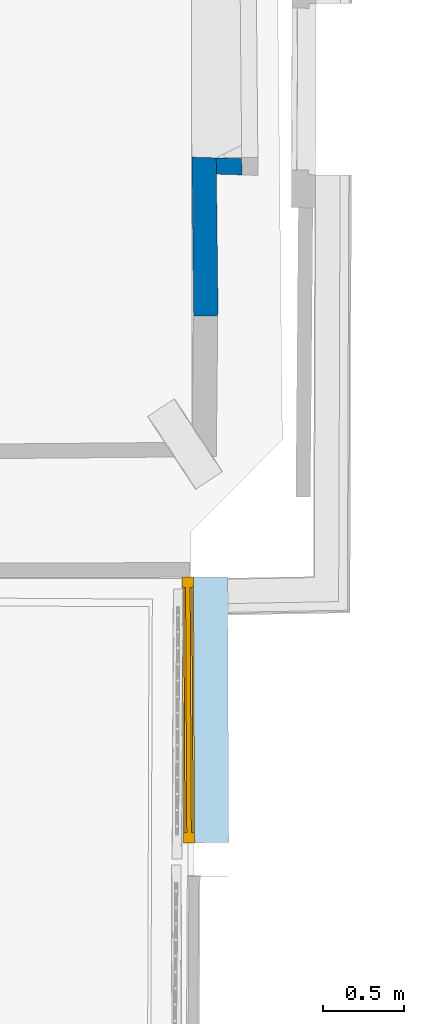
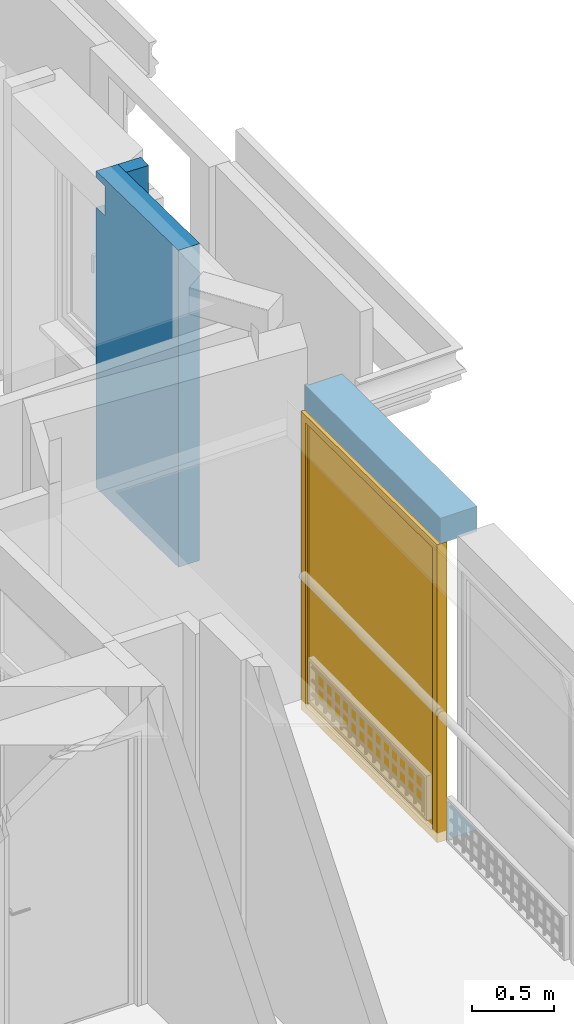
# One storey, part 56 of 72: 2 walls, 1 window, 1 opening, plus 1 element that does not belong to this part.
"""IFC2X3 building model written with IfcOpenShell, lengths in centimetres."""

import ifcopenshell
import ifcopenshell.guid

model = None  # the IFC model being written
_history = None  # IfcOwnerHistory: only IFC2X3 demands one
_inside = {}  # id of a spatial element -> (the spatial element, [elements in it])
_under = {}  # id of a project, library or spatial element -> (it, [spatial elements below it])
_declared = {}  # id of a project -> (the project, [libraries it declares])
_typed = {}  # id of a type object -> (the type object, [elements of that type])
_made_of = {}  # id of a material, layer set ... -> (it, [elements and type objects made of it])


def new_model(schema):
    """Start an empty IFC model of exactly this schema.

    Asked for "IFC4X3", IfcOpenShell would pick the latest addendum, in which some entities
    have other attributes; the version numbers below select the first issue.
    IFC2X3 requires an IfcOwnerHistory on every rooted entity: one is made here for all.
    """
    global model, _history
    if schema == "IFC4X3":
        model = ifcopenshell.file(schema_version=(4, 3, 0, 0))
    else:
        model = ifcopenshell.file(schema=schema)
    _inside.clear()
    _under.clear()
    _declared.clear()
    _typed.clear()
    _made_of.clear()
    _history = None
    if model.schema == "IFC2X3":
        org = make("IfcOrganization", Name="unknown")
        user = make(
            "IfcPersonAndOrganization",
            ThePerson=make("IfcPerson", FamilyName="unknown"),
            TheOrganization=org,
        )
        app = make(
            "IfcApplication",
            ApplicationDeveloper=org,
            Version="unknown",
            ApplicationFullName="unknown",
            ApplicationIdentifier="unknown",
        )
        _history = make(
            "IfcOwnerHistory",
            OwningUser=user,
            OwningApplication=app,
            ChangeAction="ADDED",
            CreationDate=0,
        )
    return model


def make(cls, **values):
    """One entity of the class cls with the attributes given. An attribute that is None is left unset."""
    return model.create_entity(
        cls, **{name: value for name, value in values.items() if value is not None}
    )


def entity(cls, *values):
    """Any entity or typed value of the class cls, its attributes in the order of the schema. None: left unset."""
    e = model.create_entity(cls)
    for i, value in enumerate(values):
        if value is not None:
            e[i] = value
    return e


def rooted(cls, **values):
    """An entity with a GlobalId (a new one), such as an element, a storey or a relation."""
    return make(cls, GlobalId=ifcopenshell.guid.new(), OwnerHistory=_history, **values)


def si_unit(unit_type, name, prefix=None):
    """IfcSIUnit, for example si_unit("LENGTHUNIT", "METRE", prefix="MILLI")."""
    return make("IfcSIUnit", UnitType=unit_type, Prefix=prefix, Name=name)


def converted_unit(unit_type, name, factor, base, dimensions=None, offset=None):
    """IfcConversionBasedUnit, such as the inch: factor (a typed value) times the base unit."""
    return make(
        "IfcConversionBasedUnit"
        if offset is None
        else "IfcConversionBasedUnitWithOffset",
        ConversionOffset=offset,
        Dimensions=None
        if dimensions is None
        else entity("IfcDimensionalExponents", *dimensions),
        UnitType=unit_type,
        Name=name,
        ConversionFactor=make(
            "IfcMeasureWithUnit", ValueComponent=factor, UnitComponent=base
        ),
    )


def assignment(units):
    """IfcUnitAssignment: the units of a project."""
    return None if units is None else make("IfcUnitAssignment", Units=units)


def point(xyz):
    """IfcCartesianPoint."""
    return None if xyz is None else make("IfcCartesianPoint", Coordinates=xyz)


def direction(xyz):
    """IfcDirection."""
    return None if xyz is None else make("IfcDirection", DirectionRatios=xyz)


def frame(location, z_axis=None, x_axis=None):
    """IfcAxis2Placement3D, a coordinate frame: its origin and axes. An axis left out is left unset."""
    return make(
        "IfcAxis2Placement3D",
        Location=point(location),
        Axis=direction(z_axis),
        RefDirection=direction(x_axis),
    )


def origin():
    """The frame at (0, 0, 0) with its axes left unset."""
    return frame((0.0, 0.0, 0.0))


def origin_with_axes():
    """The frame at (0, 0, 0) with the z axis (0, 0, 1) and the x axis (1, 0, 0) written out."""
    return frame((0.0, 0.0, 0.0), z_axis=(0.0, 0.0, 1.0), x_axis=(1.0, 0.0, 0.0))


def place(relative_to, where):
    """IfcLocalPlacement: puts the frame where relative to a parent placement (None: the world)."""
    return make(
        "IfcLocalPlacement", PlacementRelTo=relative_to, RelativePlacement=where
    )


def context(
    kind, dimensions, precision=None, world=None, true_north=None, identifier=None
):
    """IfcGeometricRepresentationContext, for example the 3D "Model" context."""
    return make(
        "IfcGeometricRepresentationContext",
        ContextIdentifier=identifier,
        ContextType=kind,
        CoordinateSpaceDimension=dimensions,
        Precision=precision,
        WorldCoordinateSystem=world,
        TrueNorth=true_north,
    )


def subcontext(parent, identifier, kind, view, scale=None):
    """IfcGeometricRepresentationSubContext, for example "Body" below "Model"."""
    return make(
        "IfcGeometricRepresentationSubContext",
        ContextIdentifier=identifier,
        ContextType=kind,
        ParentContext=parent,
        TargetScale=scale,
        TargetView=view,
    )


def project(units=None, contexts=None):
    """IfcProject with its units and contexts."""
    return rooted(
        "IfcProject",
        Name="project",
        RepresentationContexts=contexts,
        UnitsInContext=assignment(units),
    )


def spatial(cls, under=None, at=None, **own):
    """A site, building, storey or space (cls), placed at a placement, below another one or the project."""
    s = rooted(cls, ObjectPlacement=at, **own)
    if under is not None:
        _under.setdefault(under.id(), (under, []))[1].append(s)
    return s


def polyline(points):
    """IfcPolyline through the points."""
    return make("IfcPolyline", Points=[point(p) for p in points])


def outline(outer, holes=None, kind="AREA"):
    """IfcArbitraryClosedProfileDef: a profile drawn as a closed curve; with holes, ...WithVoids."""
    if holes is None:
        return make("IfcArbitraryClosedProfileDef", ProfileType=kind, OuterCurve=outer)
    return make(
        "IfcArbitraryProfileDefWithVoids",
        ProfileType=kind,
        OuterCurve=outer,
        InnerCurves=holes,
    )


def extrude(swept, where, along, depth):
    """IfcExtrudedAreaSolid: the profile swept, set in the frame where, extruded along a direction by depth."""
    return make(
        "IfcExtrudedAreaSolid",
        SweptArea=swept,
        Position=where,
        ExtrudedDirection=direction(along),
        Depth=depth,
    )


def clip(a, b, op="DIFFERENCE"):
    """IfcBooleanClippingResult: the solid a cut by the half space b."""
    return make(
        "IfcBooleanClippingResult", Operator=op, FirstOperand=a, SecondOperand=b
    )


def bounded_halfspace(plane, agree, where, boundary):
    """IfcPolygonalBoundedHalfSpace: a half space limited to a polygon's prism."""
    return make(
        "IfcPolygonalBoundedHalfSpace",
        BaseSurface=make("IfcPlane", Position=plane),
        AgreementFlag=agree,
        Position=where,
        PolygonalBoundary=boundary,
    )


def faces_of(points, faces, orient=None, outer=None):
    """IfcFace entities. A face is a list of loops; a loop is a list of indices into points, from 0.

    orient and outer hold one flag for each loop. By default every Orientation is true, the
    first loop of a face is its IfcFaceOuterBound and the others are IfcFaceBound.
    """
    made = []
    for i, loops in enumerate(faces):
        bounds = []
        for j, loop in enumerate(loops):
            is_outer = j == 0 if outer is None else outer[i][j]
            bounds.append(
                make(
                    "IfcFaceOuterBound" if is_outer else "IfcFaceBound",
                    Bound=make("IfcPolyLoop", Polygon=[points[k] for k in loop]),
                    Orientation=True if orient is None else orient[i][j],
                )
            )
        made.append(make("IfcFace", Bounds=bounds))
    return made


def faceted_brep(points, faces, orient=None, outer=None, voids=None):
    """IfcFacetedBrep: a solid bounded by flat faces; with voids (closed shells), ...WithVoids."""
    shared = [point(p) for p in points]
    hull = make("IfcClosedShell", CfsFaces=faces_of(shared, faces, orient, outer))
    if voids is None:
        return make("IfcFacetedBrep", Outer=hull)
    return make(
        "IfcFacetedBrepWithVoids",
        Outer=hull,
        Voids=[
            make(cls, CfsFaces=faces_of(shared, fs, o, b)) for cls, fs, o, b in voids
        ],
    )


def shape(context_of_items, identifier, shape_type, items):
    """IfcShapeRepresentation: the items that make up one representation, for example the "Body"."""
    return make(
        "IfcShapeRepresentation",
        ContextOfItems=context_of_items,
        RepresentationIdentifier=identifier,
        RepresentationType=shape_type,
        Items=items,
    )


def source(mapping_origin, context_of_items, identifier, shape_type, items):
    """IfcRepresentationMap: a shape defined once, which mapped items show again and again."""
    return make(
        "IfcRepresentationMap",
        MappingOrigin=mapping_origin,
        MappedRepresentation=shape(context_of_items, identifier, shape_type, items),
    )


def transform(
    local_origin,
    x_axis=None,
    y_axis=None,
    z_axis=None,
    scale=None,
    scale2=None,
    scale3=None,
    uniform=True,
):
    """IfcCartesianTransformationOperator3D, or its non-uniform kind. x_axis, y_axis, z_axis: its Axis1, 2, 3."""
    if uniform:
        return make(
            "IfcCartesianTransformationOperator3D",
            Axis1=direction(x_axis),
            Axis2=direction(y_axis),
            LocalOrigin=point(local_origin),
            Scale=scale,
            Axis3=direction(z_axis),
        )
    return make(
        "IfcCartesianTransformationOperator3DnonUniform",
        Axis1=direction(x_axis),
        Axis2=direction(y_axis),
        LocalOrigin=point(local_origin),
        Scale=scale,
        Axis3=direction(z_axis),
        Scale2=scale2,
        Scale3=scale3,
    )


def mapped(mapping_source, mapping_target):
    """IfcMappedItem: shows the shape of a source again, moved by a transform."""
    return make(
        "IfcMappedItem", MappingSource=mapping_source, MappingTarget=mapping_target
    )


def material(Name=None, Category=None):
    """IfcMaterial."""
    return make("IfcMaterial", Name=Name, Category=Category)


def material_list(materials):
    """IfcMaterialList."""
    return make("IfcMaterialList", Materials=materials)


def layer(
    of_material, thickness, ventilated=None, Name=None, Category=None, Priority=None
):
    """IfcMaterialLayer: one layer of a wall or slab, of a material (None: an air gap)."""
    return make(
        "IfcMaterialLayer",
        Material=of_material,
        LayerThickness=thickness,
        IsVentilated=ventilated,
        Name=Name,
        Category=Category,
        Priority=Priority,
    )


def layer_set(layers, Name=None):
    """IfcMaterialLayerSet."""
    return make("IfcMaterialLayerSet", MaterialLayers=layers, LayerSetName=Name)


def layer_usage(for_layer_set, set_direction, sense, offset, extent=None):
    """IfcMaterialLayerSetUsage: how a layer set lies in its element."""
    return make(
        "IfcMaterialLayerSetUsage",
        ForLayerSet=for_layer_set,
        LayerSetDirection=set_direction,
        DirectionSense=sense,
        OffsetFromReferenceLine=offset,
        ReferenceExtent=extent,
    )


def made_of(thing, what):
    """Note that an element or type object is made of a material, layer set ...; save() writes the relation."""
    if what is not None:
        _made_of.setdefault(what.id(), (what, []))[1].append(thing)
    return thing


def type_object(cls, material=None, **own):
    """A type object (cls), such as IfcWallType, which elements share."""
    return made_of(rooted(cls, **own), material)


def element(
    cls,
    number,
    at=None,
    inside=None,
    cuts=None,
    type_object=None,
    material=None,
    context=None,
    identifier="Body",
    shape_type=None,
    held_by="IfcProductDefinitionShape",
    body=None,
    shapes=None,
    **own,
):
    """One element of the class cls, such as IfcWall. Its Tag is "e" and its number.

    at: its placement. inside: the storey or other place that contains it. cuts: it is an
    opening in that element (IfcRelVoidsElement). A single representation is given by context,
    identifier, shape_type and body (its items); several are given by shapes. held_by: the class
    of the entity that holds the representations. save() writes the other relations.
    """
    e = rooted(cls, Tag="e%d" % number, ObjectPlacement=at, **own)
    if body is not None:
        shapes = [shape(context, identifier, shape_type, body)]
    if shapes is not None:
        e.Representation = make(held_by, Representations=shapes)
    if inside is not None:
        _inside.setdefault(inside.id(), (inside, []))[1].append(e)
    if cuts is not None:
        rooted(
            "IfcRelVoidsElement", RelatingBuildingElement=cuts, RelatedOpeningElement=e
        )
    if type_object is not None:
        _typed.setdefault(type_object.id(), (type_object, []))[1].append(e)
    return made_of(e, material)


def fill(opening, filler):
    """IfcRelFillsElement: the door or window that sits in an opening."""
    return rooted(
        "IfcRelFillsElement",
        RelatingOpeningElement=opening,
        RelatedBuildingElement=filler,
    )


def aggregate(whole, parts):
    """IfcRelAggregates: a whole, such as a stair, and the parts it consists of."""
    return rooted("IfcRelAggregates", RelatingObject=whole, RelatedObjects=parts)


def save(model, path):
    """Write the relations noted so far, then the file.

    IfcRelAggregates (storeys below a building ...), IfcRelContainedInSpatialStructure (elements
    in a storey), IfcRelDefinesByType, IfcRelAssociatesMaterial and IfcRelDeclares: one each for
    every whole, place, type object, material and project.
    """
    for whole, parts in _under.values():
        aggregate(whole, parts)
    for where, things in _inside.values():
        rooted(
            "IfcRelContainedInSpatialStructure",
            RelatedElements=things,
            RelatingStructure=where,
        )
    for kind, things in _typed.values():
        rooted("IfcRelDefinesByType", RelatedObjects=things, RelatingType=kind)
    for what, things in _made_of.values():
        rooted("IfcRelAssociatesMaterial", RelatedObjects=things, RelatingMaterial=what)
    for by, libraries in _declared.values():
        rooted("IfcRelDeclares", RelatingContext=by, RelatedDefinitions=libraries)
    model.write(path)


model = new_model("IFC2X3")

# Units and contexts
model_context = context("Model", 3, precision=0.0001, world=origin(), true_north=direction((0.225632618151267, 0.974212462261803, 0.0)))
body_context = subcontext(model_context, "Body", "Model", "MODEL_VIEW")
footprint_context = subcontext(model_context, "FootPrint", "Model", "MODEL_VIEW")
profile_context = subcontext(model_context, "Profile", "Model", "MODEL_VIEW")
ifc_project = project(units=[si_unit("LENGTHUNIT", "METRE", prefix="CENTI"), si_unit("AREAUNIT", "SQUARE_METRE", prefix="CENTI"), si_unit("VOLUMEUNIT", "CUBIC_METRE", prefix="CENTI"), converted_unit("PLANEANGLEUNIT", "DEGREE", entity("IfcRatioMeasure", 0.0174532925), si_unit("PLANEANGLEUNIT", "RADIAN"), dimensions=[0, 0, 0, 0, 0, 0, 0])], contexts=[model_context])

# Site, building, storey
site_placement = place(None, origin_with_axes())
site = spatial("IfcSite", under=ifc_project, at=site_placement, Name="Default Site", CompositionType="ELEMENT")
building_placement = place(site_placement, origin_with_axes())
building = spatial("IfcBuilding", under=site, at=building_placement, Name="Default Building", CompositionType="ELEMENT")
storey_placement = place(building_placement, frame((0.0, 0.0, 853.910374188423), z_axis=(0.0, 0.0, 1.0), x_axis=(1.0, 0.0, 0.0)))
storey = spatial("IfcBuildingStorey", under=building, at=storey_placement, Name="Niveau 2", CompositionType="ELEMENT", Elevation=853.910374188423)

# Walls
ifc_material_1 = material(Name="<aucun>")
ifc_layer_1 = layer(ifc_material_1, 15.0)
ifc_layer_set_1 = layer_set([ifc_layer_1], Name="default")
ifc_layer_usage_1 = layer_usage(ifc_layer_set_1, "AXIS2", "POSITIVE", -7.5)
wall_type_1 = type_object("IfcWallType", Name="default 150", PredefinedType="NOTDEFINED", material=ifc_layer_set_1)
wall_1_placement = place(storey_placement, frame((1082.95046021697, 313.039782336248, 1.4210854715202e-12), z_axis=(0.0, 0.0, 1.0), x_axis=(-0.0119277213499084, 0.999928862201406, 0.0)))
element("IfcWall", 1, at=wall_1_placement, inside=storey, type_object=wall_type_1, material=ifc_layer_usage_1, Name="Enveloppe 150037", context=body_context, shape_type="Brep", body=[
    faceted_brep([(0.274368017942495, 7.49997107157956, 199.999976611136), (10.2630058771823, 7.49997106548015, 199.999976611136), (10.2630058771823, 7.49997106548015, -2.33888638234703e-05), (0.274368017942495, 7.49997107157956, -2.33888638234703e-05), (10.2630058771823, 7.50003867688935, 199.999976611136), (87.555200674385, 7.50003862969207, 199.999976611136), (98.2115993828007, 7.5000386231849, 199.999976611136), (98.2115993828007, 7.5000386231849, -2.33888638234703e-05), (10.2630058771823, 7.50003867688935, -2.33888638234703e-05), (0.274368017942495, 7.49997107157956, 234.007525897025), (10.2630058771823, 7.49997106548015, 234.007525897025), (10.2630058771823, 7.50003867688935, 234.007525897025), (87.555200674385, 7.50003862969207, 234.007525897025), (87.555200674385, 7.50003862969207, 229.999995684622), (87.555200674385, 7.50003862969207, 207.999968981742), (98.2115993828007, 7.49995873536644, 199.999976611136), (87.5552006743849, 7.49995874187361, 199.999976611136), (87.5552006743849, 7.49995874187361, 207.999968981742), (98.2115993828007, 7.49995873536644, 207.999968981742), (98.2115993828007, 7.49995873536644, 229.999995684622), (87.5552006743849, 7.49995874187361, 229.999995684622), (87.5552006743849, 7.49995874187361, 234.007525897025), (98.2115993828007, 7.49995873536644, 234.007525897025), (0.274368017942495, 7.49997107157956, 235.000014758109), (10.2630058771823, 7.49997106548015, 235.000014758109), (10.2630058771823, 7.50003867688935, 235.000014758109), (98.2115993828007, 7.5000386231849, 235.000014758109), (98.2115993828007, 7.5000386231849, 234.007525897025), (92.6532316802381, -7.50000284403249, -2.33888638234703e-05), (97.5645266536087, -7.5000028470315, -2.33888638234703e-05), (97.5645266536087, -7.5000028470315, 199.999976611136), (92.6532316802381, -7.50000284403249, 199.999976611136), (10.0975249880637, -7.49997010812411, -2.33888638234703e-05), (83.6301637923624, -7.49997015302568, -2.33888638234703e-05), (83.6301637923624, -7.49997015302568, 199.999976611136), (10.0975249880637, -7.49997010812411, 199.999976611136), (-0.05169718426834, -7.275995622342, -2.33888638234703e-05), (10.0975249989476, -7.49996961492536, -2.33888638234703e-05), (10.0975249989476, -7.49996961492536, 199.999976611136), (-0.05169718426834, -7.275995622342, 199.999976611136), (87.5551932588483, -7.50000284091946, 199.999976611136), (87.5551932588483, -7.50000284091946, -2.33888638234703e-05), (87.5551932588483, -7.50003928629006, 199.999976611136), (83.6301637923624, -7.5000392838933, 199.999976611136), (83.6301637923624, -7.5000392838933, -2.33888638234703e-05), (87.5551932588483, -7.50003928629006, -2.33888638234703e-05), (10.0975249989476, -7.49996961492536, 234.007525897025), (-0.05169718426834, -7.275995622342, 234.007525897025), (87.5551932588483, -7.49997015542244, 199.999976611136), (87.5551932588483, -7.49997015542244, 208.999991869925), (87.5551932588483, -7.49997015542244, 234.007525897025), (10.0975249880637, -7.49997010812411, 234.007525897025), (97.5645266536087, -7.50003929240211, 199.999976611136), (97.5645266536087, -7.50003929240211, 207.999968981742), (87.5551932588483, -7.50003928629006, 207.999968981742), (87.5551932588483, -7.50003928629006, 229.999995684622), (97.5645266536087, -7.50003929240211, 229.999995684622), (97.5645266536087, -7.50003929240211, 234.007525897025), (87.5551932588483, -7.50003928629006, 234.007525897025), (10.0975249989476, -7.49996961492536, 235.000014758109), (-0.05169718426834, -7.275995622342, 235.000014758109), (97.5645266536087, -7.50002780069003, 235.000014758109), (87.5551932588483, -7.50002779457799, 235.000014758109), (87.5551932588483, -7.50002779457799, 234.007525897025), (97.5645266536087, -7.50002780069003, 234.007525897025), (87.5551932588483, -7.50003928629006, 235.000014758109), (10.0975249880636, -7.50003923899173, 235.000014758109), (10.0975249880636, -7.50003923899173, 234.007525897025), (98.2115993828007, 7.49995873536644, -2.33888638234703e-05), (97.5645266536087, -7.50002780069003, -2.33888638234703e-05), (91.8296038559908, 3.99545261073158, -2.33888638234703e-05), (82.800726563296, 4.07616330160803, -2.33888638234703e-05), (74.8530165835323, 4.14731531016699, -2.33888638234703e-05), (65.8060684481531, 4.22824156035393, -2.33888638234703e-05), (0.21511009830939, 4.81494000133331, -2.33888638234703e-05), (0.215114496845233, 4.81493990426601, -2.33888638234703e-05), (0.215114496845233, 4.81493990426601, 199.999976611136), (0.0165445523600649, -4.18363306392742, -2.33888638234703e-05), (66.649521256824, -4.77970931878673, -2.33888638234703e-05), (75.6964693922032, -4.86063556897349, -2.33888638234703e-05), (83.446013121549, -4.92999598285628, -2.33888638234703e-05), (83.6301637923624, -7.49995266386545, -2.33888638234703e-05), (-0.0516979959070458, -7.27599560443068, -2.33888638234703e-05), (-0.0516979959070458, -7.27599560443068, 199.999976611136), (0.0165445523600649, -4.18363306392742, 199.999976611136), (0.0942462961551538, -0.662008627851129, 199.999976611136), (0.215112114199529, 4.81493995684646, 199.999976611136), (0.215112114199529, 4.81493995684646, -2.33888638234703e-05), (0.0942462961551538, -0.662008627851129, -2.33888638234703e-05), (0.0373613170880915, -3.2400581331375, 199.999976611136), (0.094253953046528, -0.662008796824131, 199.999976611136), (0.094253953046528, -0.662008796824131, -2.33888638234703e-05), (0.0373613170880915, -3.2400581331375, -2.33888638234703e-05), (0.0373674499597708, -3.24005826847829, 199.999976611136), (0.0373674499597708, -3.24005826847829, -2.33888638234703e-05), (87.555200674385, 7.50003587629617, 229.999995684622), (87.5552006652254, -7.50003928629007, 229.999995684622), (87.5552006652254, -7.50003928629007, 207.999968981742), (87.555200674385, 7.50003587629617, 207.999968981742), (0.0373613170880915, -3.2400581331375, 234.007525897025), (0.094253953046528, -0.662008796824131, 234.007525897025), (0.0165445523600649, -4.18363306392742, 234.007525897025), (0.0373674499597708, -3.24005826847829, 234.007525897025), (0.0165453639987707, -4.18363308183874, 234.007525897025), (0.0165453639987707, -4.18363308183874, 199.999976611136), (0.0942462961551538, -0.662008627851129, 234.007525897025), (0.215112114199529, 4.81493995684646, 234.007525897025), (0.21511009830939, 4.81494000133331, 234.007525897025), (0.274363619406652, 7.49997116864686, 234.007525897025), (0.274363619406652, 7.49997116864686, 199.999976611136), (0.21511009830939, 4.81494000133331, 199.999976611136), (97.5645266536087, -7.50002780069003, 207.999968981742), (97.5645266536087, -7.50002780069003, 229.999995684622), (0.21511009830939, 4.81494000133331, 235.000014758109), (0.0942462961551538, -0.662008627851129, 235.000014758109), (0.0373613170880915, -3.2400581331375, 235.000014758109), (0.0165445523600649, -4.18363306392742, 235.000014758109), (10.0975249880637, -7.49997010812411, 235.000014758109), (98.2115993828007, 7.49995873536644, 235.000014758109), (0.094253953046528, -0.662008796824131, 235.000014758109), (0.0373674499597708, -3.24005826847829, 235.000014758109), (0.0165453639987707, -4.18363308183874, 235.000014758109), (0.215112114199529, 4.81493995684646, 235.000014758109), (0.274363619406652, 7.49997116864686, 235.000014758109), (98.2115866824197, 7.49995928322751, -2.33888638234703e-05), (98.2115866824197, 7.49995928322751, 199.999976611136), (97.5645266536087, -7.50002780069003, 199.999976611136), (98.2115866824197, 7.49995928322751, 207.999968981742), (98.2115866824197, 7.49995928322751, 229.999995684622), (98.2115866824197, 7.49995928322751, 234.007525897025), (98.2115866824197, 7.49995928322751, 235.000014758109)], [[[0, 1, 2, 3]], [[4, 5, 6, 7, 8]], [[9, 10, 1, 0]], [[11, 12, 13, 14, 5, 4]], [[15, 16, 17, 18]], [[19, 20, 21, 22]], [[23, 24, 10, 9]], [[25, 26, 27, 12, 11]], [[28, 29, 30, 31]], [[32, 33, 34, 35]], [[36, 37, 38, 39]], [[31, 40, 41, 28]], [[42, 43, 44, 45]], [[39, 38, 46, 47]], [[35, 34, 48, 49, 50, 51]], [[42, 52, 53, 54]], [[55, 56, 57, 58]], [[47, 46, 59, 60]], [[61, 62, 63, 64]], [[65, 66, 67, 58]], [[3, 8, 68, 69, 28, 70, 71, 72, 73, 74]], [[3, 75, 76, 0]], [[36, 77, 78, 79, 80, 81, 32]], [[77, 82, 83, 84]], [[71, 80, 77, 74]], [[85, 86, 87, 88]], [[89, 90, 91, 92]], [[84, 93, 94, 77]], [[71, 70, 28, 81, 80]], [[95, 96, 97, 98]], [[99, 100, 90, 89]], [[101, 102, 93, 84]], [[47, 103, 104, 39]], [[105, 106, 86, 85]], [[107, 108, 109, 110]], [[18, 98, 54, 111]], [[112, 55, 95, 19]], [[23, 113, 114, 115, 116, 60, 117, 65, 61, 118, 25]], [[115, 119, 100, 99]], [[116, 120, 102, 101]], [[60, 121, 103, 47]], [[114, 122, 106, 105]], [[113, 123, 108, 107]], [[69, 124, 125, 126]], [[126, 125, 127, 111]], [[112, 128, 129, 64]], [[64, 129, 130, 61]]]),
])
ifc_layer_2 = layer(ifc_material_1, 10.0)
ifc_layer_set_2 = layer_set([ifc_layer_2], Name="default")
ifc_layer_usage_2 = layer_usage(ifc_layer_set_2, "AXIS2", "POSITIVE", -5.0)
wall_type_2 = type_object("IfcWallType", Name="default 100", PredefinedType="NOTDEFINED", material=ifc_layer_set_2)
wall_2_placement = place(storey_placement, frame((1104.91638654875, 405.196836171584, 1.06581410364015e-12), z_axis=(0.0, 0.0, 1.0), x_axis=(-0.99951386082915, 0.0311775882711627, 0.0)))
element("IfcWall", 2, at=wall_2_placement, inside=storey, type_object=wall_type_2, material=ifc_layer_usage_2, Name="Enveloppe 180222", context=body_context, shape_type="Brep", body=[
    faceted_brep([(15.3623341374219, 5.00002191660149, -2.33888634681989e-05), (-0.357949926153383, 5.00002190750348, -2.33888634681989e-05), (-0.357949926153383, 5.00002190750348, 199.999976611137), (4.26069256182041e-05, 5.00002190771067, 199.999976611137), (15.3623341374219, 5.00002191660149, 199.999976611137), (4.26069256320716e-05, 4.99999794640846, 199.999976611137), (-0.357949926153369, 4.99999794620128, 199.999976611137), (-0.357949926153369, 4.99999794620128, 207.999968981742), (4.26069256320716e-05, 4.99999794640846, 207.999968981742), (4.26069256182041e-05, 5.00002190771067, 207.999968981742), (4.26069256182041e-05, 5.00002190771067, 208.999991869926), (15.3623341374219, 5.00002191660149, 208.999991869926), (4.26069256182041e-05, 5.00002190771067, 234.007525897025), (15.3623341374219, 5.00002191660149, 234.007525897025), (4.26069256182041e-05, 5.00002190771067, 235.000014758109), (15.3623341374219, 5.00002191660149, 235.000014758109), (0.0472919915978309, -4.99999523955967, -2.33888634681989e-05), (15.7937207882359, -4.99999523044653, -2.33888634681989e-05), (15.7937207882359, -4.99999523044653, 199.999976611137), (15.362354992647, -4.99999523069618, 199.999976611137), (0.0472919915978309, -4.99999523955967, 199.999976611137), (15.362354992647, -4.99999523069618, 207.999968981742), (15.362354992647, -4.99999523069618, 208.999991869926), (0.0472919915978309, -4.99999523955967, 208.999991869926), (0.0472919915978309, -4.99999523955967, 207.999968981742), (15.362354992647, -5.00001324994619, 199.999976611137), (15.7937207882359, -5.00001324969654, 199.999976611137), (15.7937207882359, -5.00001324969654, 207.999968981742), (15.362354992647, -5.00001324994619, 207.999968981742), (-3.33455822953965e-05, -4.99999253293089, 207.999968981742), (0.0472919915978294, -4.9999925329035, 207.999968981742), (0.0472919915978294, -4.9999925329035, 208.999991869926), (-3.33455822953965e-05, -4.99999253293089, 208.999991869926), (15.362354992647, -4.99999252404, 208.999991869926), (15.362354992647, -4.99999252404, 229.999995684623), (15.362354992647, -4.99999252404, 234.007525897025), (-3.33455822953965e-05, -4.99999253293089, 234.007525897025), (15.362354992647, -5.00001324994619, 229.999995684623), (15.7937207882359, -5.00001324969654, 229.999995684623), (15.7937207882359, -5.00001324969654, 234.007525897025), (15.362354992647, -5.00001324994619, 234.007525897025), (15.7937207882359, -4.99999252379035, 234.007525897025), (15.7937207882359, -4.99999252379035, 235.000014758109), (-3.33455822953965e-05, -4.99999253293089, 235.000014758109), (2.44397421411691e-05, -3.83336600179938, -2.33888634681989e-05), (-0.0785209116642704, -1.89648252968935, -2.33888634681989e-05), (15.5820822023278, -0.0932782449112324, -2.33888634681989e-05), (15.7937207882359, -5.00001111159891, -2.33888634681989e-05), (15.5820572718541, -0.0932793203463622, -2.33888634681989e-05), (15.5820572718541, -0.0932793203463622, 199.999976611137), (15.7937207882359, -5.00001111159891, 199.999976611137), (0.0473011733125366, -4.99999486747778, -2.33888634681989e-05), (0.0473011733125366, -4.99999486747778, 199.999976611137), (2.44397421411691e-05, -3.83336600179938, 199.999976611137), (-3.01155921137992e-05, -3.83336821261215, -2.33888634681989e-05), (-3.01155921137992e-05, -3.83336821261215, 199.999976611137), (-0.0785209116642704, -1.89648252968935, 199.999976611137), (-0.357949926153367, 4.99999459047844, -2.33888634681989e-05), (-0.0784755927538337, -1.89648069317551, -2.33888634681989e-05), (-0.0784755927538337, -1.89648069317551, 199.999976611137), (-0.357949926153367, 4.99999459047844, 199.999976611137), (15.3623705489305, 5.0000234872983, -2.33888634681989e-05), (15.3623705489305, 5.0000234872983, 199.999976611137), (15.5820822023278, -0.0932782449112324, 199.999976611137), (2.44397421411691e-05, -3.83336600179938, 207.999968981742), (-0.357949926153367, 4.99999459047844, 207.999968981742), (-0.0785209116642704, -1.89648252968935, 207.999968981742), (-0.0784755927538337, -1.89648069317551, 207.999968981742), (-3.01155921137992e-05, -3.83336821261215, 207.999968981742), (0.0473011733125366, -4.99999486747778, 207.999968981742), (15.3623341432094, -5.0000132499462, 208.999991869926), (15.3623341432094, -5.0000132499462, 207.999968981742), (15.3623341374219, 5.00002191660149, 207.999968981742), (2.44397421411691e-05, -3.83336600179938, 208.999991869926), (2.44346298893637e-05, 4.99999794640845, 208.999991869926), (2.44346298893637e-05, 4.99999794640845, 207.999968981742), (15.7937207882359, -5.00001111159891, 207.999968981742), (15.3623456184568, 5.00002241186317, 199.999976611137), (15.3623456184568, 5.00002241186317, 207.999968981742), (2.44404173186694e-05, -4.99999253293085, 207.999968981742), (2.44404173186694e-05, -4.99999253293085, 208.999991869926), (4.26069256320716e-05, 4.99999794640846, 208.999991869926), (4.26120378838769e-05, -3.83336600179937, 208.999991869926), (4.26127130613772e-05, -4.99999253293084, 208.999991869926), (4.26127130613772e-05, -4.99999253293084, 234.007525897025), (4.26069256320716e-05, 4.99999794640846, 234.007525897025), (15.3623341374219, 5.00002191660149, 229.999995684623), (15.3623341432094, -5.0000132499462, 229.999995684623), (15.7937207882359, -5.00001111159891, 229.999995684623), (15.3623456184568, 5.00002241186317, 229.999995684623), (15.3623456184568, 5.00002241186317, 234.007525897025), (15.7937207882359, -5.00001111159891, 234.007525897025), (4.26069256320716e-05, 4.99999794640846, 235.000014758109), (15.7937207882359, -5.00001111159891, 235.000014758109), (4.26127130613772e-05, -4.99999253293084, 235.000014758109), (15.3623456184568, 5.00002241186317, 235.000014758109)], [[[0, 1, 2, 3, 4]], [[5, 6, 7, 8]], [[4, 3, 9, 10, 11]], [[11, 10, 12, 13]], [[13, 12, 14, 15]], [[16, 17, 18, 19, 20]], [[20, 19, 21, 22, 23, 24]], [[25, 26, 27, 28]], [[29, 30, 31, 32]], [[32, 31, 33, 34, 35, 36]], [[37, 38, 39, 40]], [[36, 35, 41, 42, 43]], [[16, 44, 45, 46, 47]], [[47, 48, 49, 50]], [[44, 51, 52, 53]], [[45, 54, 55, 56]], [[0, 46, 45, 57]], [[57, 58, 59, 60]], [[46, 61, 62, 63]], [[64, 8, 65, 66]], [[60, 59, 67, 65]], [[56, 55, 68, 66]], [[53, 52, 69, 64]], [[11, 70, 71, 72]], [[73, 74, 75, 64]], [[28, 76, 72]], [[50, 77, 78, 76]], [[29, 64, 24]], [[64, 79, 80, 73]], [[81, 82, 83, 84, 85]], [[86, 87, 70, 11]], [[86, 88, 37]], [[88, 89, 90, 91]], [[92, 43, 93, 15]], [[85, 84, 94, 92]], [[91, 90, 95, 93]]]),
])

# Wall, opening, window
ifc_layer_3 = layer(ifc_material_1, 25.5)
ifc_layer_set_3 = layer_set([ifc_layer_3], Name="default")
ifc_layer_usage_3 = layer_usage(ifc_layer_set_3, "AXIS2", "POSITIVE", -12.75)
wall_type_3 = type_object("IfcWallType", Name="default 255", PredefinedType="NOTDEFINED", material=ifc_layer_set_3)
wall_3_placement = place(storey_placement, frame((1084.30038192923, -12.0708272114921, -4.99999999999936), z_axis=(0.0, 0.0, 1.0), x_axis=(-0.00479790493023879, 0.9999884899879, 0.0)))
wall_3 = element("IfcWallStandardCase", 3, at=wall_3_placement, inside=storey, type_object=wall_type_3, material=ifc_layer_usage_3, Name="Enveloppe 728294", context=body_context, shape_type="Clipping", body=[
    clip(clip(clip(clip(extrude(outline(polyline([(163.989545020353, 12.75), (3.23917248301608e-06, 12.7506751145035), (-1.11022302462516e-14, -12.75), (163.925111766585, -12.7500000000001), (163.989545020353, 12.75)])), frame((0.0, 0.0, 5.32907051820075e-13), z_axis=(0.0, 0.0, 1.0), x_axis=(1.0, 0.0, 0.0)), (0.0, 0.0, 1.0), 239.999999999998), bounded_halfspace(frame((163.983139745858, 10.2150589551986, 4.99999999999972), z_axis=(0.0, 0.0, -1.0), x_axis=(-0.999858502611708, 0.0168218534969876, 0.0)), True, frame((163.983139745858, 10.2150589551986, 4.99999999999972), z_axis=(0.0, 0.0, 1.0), x_axis=(1.0, 0.0, 0.0)), polyline([(-1.26178718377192, -22.9650589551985), (-0.0580279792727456, -22.9650589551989), (6.66133814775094e-14, 0.0), (-0.875169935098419, 0.0147240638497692), (-1.26178718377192, -22.9650589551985)]))), bounded_halfspace(frame((162.986722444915, 10.2318229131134, 4.99999999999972), z_axis=(0.0, 0.0, -1.0), x_axis=(-0.0127443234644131, -0.999918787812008, 0.0)), True, frame((162.986722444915, 10.2318229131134, 4.99999999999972), z_axis=(0.0, 0.0, 1.0), x_axis=(1.0, 0.0, 0.0)), polyline([(-0.292911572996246, -22.9818229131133), (-0.265369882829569, -22.9818229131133), (0.121247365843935, -0.00203989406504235), (2.22044604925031e-14, 0.0), (-0.292911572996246, -22.9818229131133)]))), bounded_halfspace(frame((163.107969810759, 10.2297830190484, 4.99999999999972), z_axis=(0.0, 0.0, -1.0), x_axis=(0.999858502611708, -0.0168218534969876, 0.0)), True, frame((163.107969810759, 10.2297830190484, 4.99999999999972), z_axis=(0.0, 0.0, 1.0), x_axis=(1.0, 0.0, 0.0)), polyline([(-0.799609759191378, 0.0134528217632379), (0.875169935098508, -0.0147240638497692), (0.876859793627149, 0.654051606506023), (-0.799609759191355, 0.675418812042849), (-0.799609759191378, 0.0134528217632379)]))), bounded_halfspace(frame((162.986722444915, 10.2318229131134, 4.99999999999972), z_axis=(0.0, 0.0, -1.0), x_axis=(-0.999858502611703, 0.0168218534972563, 0.0)), True, frame((162.986722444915, 10.2318229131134, 4.99999999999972), z_axis=(0.0, 0.0, 1.0), x_axis=(1.0, 0.0, 0.0)), polyline([(-0.678362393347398, -22.9818229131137), (-0.292911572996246, -22.9818229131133), (2.22044604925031e-14, 0.0), (-0.678362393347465, 0.0114129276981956), (-0.678362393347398, -22.9818229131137)]))),
])
opening_placement = place(wall_3_placement, frame((2.1316282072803e-14, 0.0, 0.253077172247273), z_axis=(0.0, 0.0, 1.0), x_axis=(-1.0, 7.71951946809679e-17, 0.0)))
cartesian_point_1 = entity("IfcCartesianPoint", [-1.38777878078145e-14, 0.0, 220.938131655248])
cartesian_point_2 = entity("IfcCartesianPoint", [-164.223467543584, -12.75])
opening = element("IfcOpeningElement", 4, at=opening_placement, cuts=wall_3, Name="4294966485_11", ObjectType="Opening", shapes=[
    shape(body_context, "Body", "SweptSolid", [extrude(outline(polyline([(1.38777878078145e-14, 220.938131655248), (-2.77555756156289e-15, 0.0), (164.223467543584, 0.0), (164.223467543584, 220.938131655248), (1.38777878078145e-14, 220.938131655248)])), frame((0.0, -22.75, 0.0), z_axis=(0.0, 1.0, 0.0), x_axis=(-1.0, 0.0, 0.0)), (0.0, 0.0, 1.0), 45.5)]),
    shape(profile_context, "Profile", "GeometricCurveSet", [entity("IfcGeometricCurveSet", [entity("IfcPolyline", [cartesian_point_1, entity("IfcCartesianPoint", [0.0, 0.0, 0.0]), entity("IfcCartesianPoint", [-164.223467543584, 0.0, 0.0]), entity("IfcCartesianPoint", [-164.223467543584, 0.0, 220.938131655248]), cartesian_point_1])])]),
    shape(footprint_context, "FootPrint", "GeometricCurveSet", [entity("IfcGeometricCurveSet", [entity("IfcPolyline", [cartesian_point_2, entity("IfcCartesianPoint", [2.77555756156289e-15, -12.7499999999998]), entity("IfcCartesianPoint", [0.0, 12.75]), entity("IfcCartesianPoint", [-164.223467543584, 12.75]), cartesian_point_2])])]),
])
ifc_material_2 = material(Name="Transparent")
ifc_material_3 = material(Name="Blanc trafic")
ifc_material_list = material_list([ifc_material_2, ifc_material_3])
window_style = type_object("IfcWindowStyle", Name="F[R] VV", ConstructionType="NOTDEFINED", OperationType="SINGLE_PANEL", ParameterTakesPrecedence=True, Sizeable=False, material=ifc_material_list)
shared_shape = source(origin_with_axes(), body_context, "Body", "Brep", [
    faceted_brep([(-76.6117334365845, 215.4381275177, -7.00000002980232), (-75.6117338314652, 214.438128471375, -6.00000042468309), (-75.6117338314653, 6.49999976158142, -6.00000042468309), (-76.6117334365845, 5.49999997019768, -7.00000002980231), (-75.6117343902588, 214.438128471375, -5.99999986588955), (-75.6117343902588, 214.438128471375, -0.999999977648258), (-75.6117343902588, 6.49999976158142, -0.999999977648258), (-75.6117343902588, 6.49999976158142, -5.99999986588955), (-76.6117339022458, 215.4381275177, -4.65661287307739e-07), (-76.6117339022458, 5.49999997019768, -4.65661295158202e-07), (-75.6117343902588, 6.49999976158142, -0.999999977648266), (-76.6117334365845, 215.4381275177, 0.0), (-82.1117341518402, 220.93813419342, 0.0), (-82.1117341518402, 0.0, 0.0), (-76.6117334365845, 5.49999997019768, 0.0), (-82.1117341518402, 220.93813419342, -7.00000002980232), (-82.1117341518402, 5.57891565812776e-31, -7.00000002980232), (-82.1117341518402, 5.57891565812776e-31, 0.0), (-76.6117334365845, 5.49999997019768, -7.00000002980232), (-82.1117341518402, 0.0, -7.00000002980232), (-75.6117343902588, 6.49999994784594, -6.00000005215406), (75.6117343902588, 6.49999994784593, -6.00000005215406), (76.6117334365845, 5.49999997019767, -7.00000002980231), (75.6117343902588, 6.4999997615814, -0.999999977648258), (75.6117343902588, 6.4999997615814, -5.99999986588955), (-76.6117334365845, 5.49999987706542, -9.31322574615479e-08), (76.6117334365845, 5.49999987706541, -9.31322692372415e-08), (75.6117343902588, 6.49999976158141, -0.99999997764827), (82.1117341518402, 0.0, 0.0), (76.6117334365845, 5.49999997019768, 0.0), (82.1117341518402, 0.0, -7.00000002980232), (76.6117334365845, 5.49999997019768, -7.00000002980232), (75.6117338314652, 6.49999976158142, -6.00000042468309), (75.6117338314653, 214.438128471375, -6.00000042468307), (76.6117334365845, 215.4381275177, -7.0000000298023), (75.6117343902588, 6.49999976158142, -5.99999986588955), (75.6117343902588, 6.49999976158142, -0.999999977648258), (75.6117343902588, 214.438128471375, -0.999999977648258), (75.6117343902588, 214.438128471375, -5.99999986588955), (76.6117339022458, 5.49999997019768, -4.65661287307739e-07), (76.6117339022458, 215.4381275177, -4.65661287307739e-07), (82.1117341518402, 220.93813419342, 0.0), (76.6117334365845, 215.4381275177, 0.0), (82.1117341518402, 220.93813419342, -7.00000002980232), (76.6117334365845, 215.4381275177, -7.00000002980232), (75.6117343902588, 214.438127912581, -6.00000042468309), (-75.6117343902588, 214.438127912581, -6.00000042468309), (76.6117334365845, 215.438127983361, -4.65661295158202e-07), (-76.6117334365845, 215.438127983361, -4.65661295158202e-07)], [[[0, 1, 2, 3]], [[4, 5, 6, 7]], [[5, 8, 9, 10]], [[11, 12, 13, 14]], [[12, 15, 16, 17]], [[15, 0, 18, 19]], [[18, 20, 21, 22]], [[7, 6, 23, 24]], [[6, 25, 26, 27]], [[14, 13, 28, 29]], [[13, 19, 30, 28]], [[19, 18, 31, 30]], [[31, 32, 33, 34]], [[35, 36, 37, 38]], [[36, 39, 40, 37]], [[29, 28, 41, 42]], [[28, 30, 43, 41]], [[30, 31, 44, 43]], [[44, 45, 46, 0]], [[38, 37, 5, 4]], [[37, 47, 48, 5]], [[42, 41, 12, 11]], [[41, 43, 15, 12]], [[43, 44, 0, 15]]]),
    faceted_brep([(75.6117343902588, 214.438128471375, -4.89999987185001), (75.6117343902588, 6.49999976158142, -4.89999987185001), (-75.6117343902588, 6.49999976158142, -4.89999987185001), (-75.6117343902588, 214.438128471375, -4.89999987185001), (-75.6117343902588, 214.438128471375, -2.09999997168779), (-75.6117343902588, 6.49999976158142, -2.09999997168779), (75.6117343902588, 6.49999976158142, -2.09999997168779), (75.6117343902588, 214.438128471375, -2.09999997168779)], [[[0, 1, 2, 3]], [[4, 5, 6, 7]], [[3, 2, 5, 4]], [[2, 1, 6, 5]], [[1, 0, 7, 6]], [[0, 3, 4, 7]]]),
])
window_placement = place(opening_placement, frame((-164.223467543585, -8.24999999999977, 0.0), z_axis=(0.0, 0.0, 1.0), x_axis=(1.0, 0.0, 0.0)))
window = element("IfcWindow", 5, at=window_placement, inside=storey, type_object=window_style, material=ifc_material_list, Name="Fenêtre 728354", OverallHeight=220.938131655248, OverallWidth=164.223467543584, context=body_context, shape_type="MappedRepresentation", body=[
    mapped(shared_shape, transform((82.1117337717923, -1.77635683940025e-13, 0.0), x_axis=(-1.0, 0.0, 0.0), y_axis=(0.0, 0.0, 1.0), z_axis=(0.0, 1.0, 0.0), scale=1.0, scale2=1.0, scale3=1.0, uniform=False)),
])
fill(opening, window)

save(model, "model.ifc")
